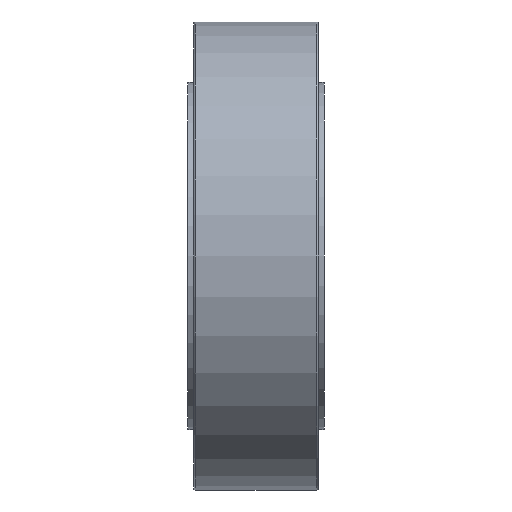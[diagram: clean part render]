
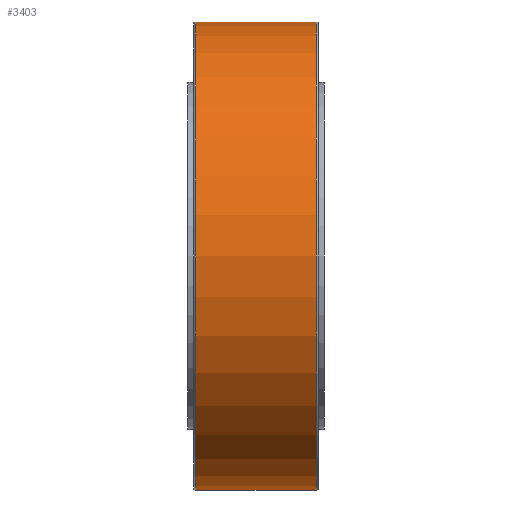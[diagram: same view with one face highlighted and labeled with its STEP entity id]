
A CAD part, front view. The second image highlights one B-rep face of the part: STEP entity #3403.
In plain terms, the highlighted cylindrical face has radius 120 mm (diameter 240 mm), a partial arc.
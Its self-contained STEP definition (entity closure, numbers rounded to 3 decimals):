
#10 = VERTEX_POINT ( 'NONE', #1109 ) ;
#15 = VERTEX_POINT ( 'NONE', #1061 ) ;
#19 = VERTEX_POINT ( 'NONE', #1092 ) ;
#46 = VERTEX_POINT ( 'NONE', #1159 ) ;
#553 = EDGE_CURVE ( 'NONE', #19, #10, #2152, .T. ) ;
#556 = EDGE_CURVE ( 'NONE', #15, #46, #2117, .T. ) ;
#1061 = CARTESIAN_POINT ( 'NONE',  ( 31., 0., 120. ) ) ;
#1092 = CARTESIAN_POINT ( 'NONE',  ( 31., 0., -120. ) ) ;
#1109 = CARTESIAN_POINT ( 'NONE',  ( -31., 0., -120. ) ) ;
#1159 = CARTESIAN_POINT ( 'NONE',  ( -31., 0., 120. ) ) ;
#2117 = LINE ( 'NONE', #2148, #2147 ) ;
#2143 = DIRECTION ( 'NONE',  ( -1., 0., 0. ) ) ;
#2147 = VECTOR ( 'NONE', #2143, 1000. ) ;
#2148 = CARTESIAN_POINT ( 'NONE',  ( -41.122, 0., 120. ) ) ;
#2149 = DIRECTION ( 'NONE',  ( -1., 0., 0. ) ) ;
#2150 = VECTOR ( 'NONE', #2149, 1000. ) ;
#2151 = CARTESIAN_POINT ( 'NONE',  ( -41.122, 0., -120. ) ) ;
#2152 = LINE ( 'NONE', #2151, #2150 ) ;
#2684 = CIRCLE ( 'NONE', #2921, 120. ) ;
#2912 = CARTESIAN_POINT ( 'NONE',  ( 31., 0., 0. ) ) ;
#2913 = DIRECTION ( 'NONE',  ( 0., 0., 1. ) ) ;
#2914 = DIRECTION ( 'NONE',  ( -1., 0., 0. ) ) ;
#2921 = AXIS2_PLACEMENT_3D ( 'NONE', #2912, #2914, #2913 ) ;
#2973 = CARTESIAN_POINT ( 'NONE',  ( -41.122, 0., 0. ) ) ;
#2986 = FACE_OUTER_BOUND ( 'NONE', #3507, .T. ) ;
#3007 = DIRECTION ( 'NONE',  ( 0., 0., 1. ) ) ;
#3008 = DIRECTION ( 'NONE',  ( -1., 0., 0. ) ) ;
#3011 = DIRECTION ( 'NONE',  ( 0., 0., -1. ) ) ;
#3012 = DIRECTION ( 'NONE',  ( 1., 0., 0. ) ) ;
#3013 = CARTESIAN_POINT ( 'NONE',  ( -31., 0., 0. ) ) ;
#3014 = AXIS2_PLACEMENT_3D ( 'NONE', #3013, #3012, #3011 ) ;
#3015 = AXIS2_PLACEMENT_3D ( 'NONE', #2973, #3008, #3007 ) ;
#3017 = CYLINDRICAL_SURFACE ( 'NONE', #3015, 120. ) ;
#3023 = CIRCLE ( 'NONE', #3014, 120. ) ;
#3398 = EDGE_CURVE ( 'NONE', #46, #10, #3023, .T. ) ;
#3402 = ORIENTED_EDGE ( 'NONE', *, *, #556, .T. ) ;
#3403 = ADVANCED_FACE ( 'NONE', ( #2986 ), #3017, .T. ) ;
#3404 = ORIENTED_EDGE ( 'NONE', *, *, #553, .F. ) ;
#3484 = ORIENTED_EDGE ( 'NONE', *, *, #3398, .T. ) ;
#3494 = ORIENTED_EDGE ( 'NONE', *, *, #3511, .T. ) ;
#3507 = EDGE_LOOP ( 'NONE', ( #3404, #3494, #3402, #3484 ) ) ;
#3511 = EDGE_CURVE ( 'NONE', #19, #15, #2684, .T. ) ;
